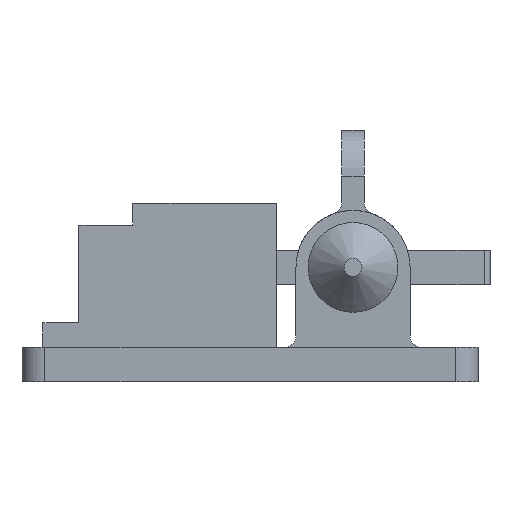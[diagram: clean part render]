
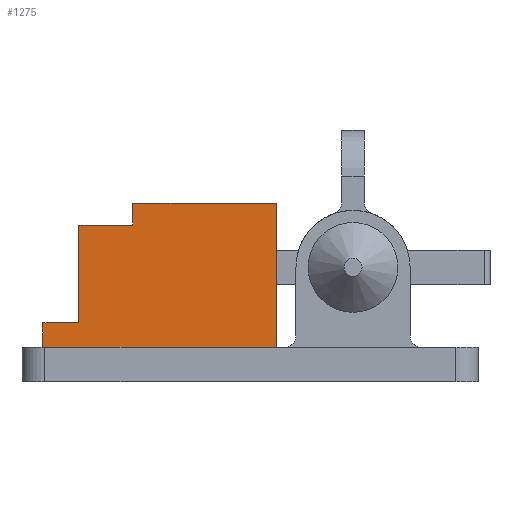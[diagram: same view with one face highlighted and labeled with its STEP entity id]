
A CAD part, left-side view. The second image highlights one B-rep face of the part: STEP entity #1275.
In plain terms, the highlighted planar face has unit normal (-1, 0, 0).
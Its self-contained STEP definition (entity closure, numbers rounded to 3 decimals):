
#86=LINE('',#2095,#178);
#89=LINE('',#2101,#181);
#92=LINE('',#2107,#184);
#95=LINE('',#2113,#187);
#98=LINE('',#2119,#190);
#101=LINE('',#2125,#193);
#104=LINE('',#2131,#196);
#107=LINE('',#2135,#199);
#178=VECTOR('',#1752,10.);
#181=VECTOR('',#1757,10.);
#184=VECTOR('',#1762,10.);
#187=VECTOR('',#1767,10.);
#190=VECTOR('',#1772,10.);
#193=VECTOR('',#1777,10.);
#196=VECTOR('',#1782,10.);
#199=VECTOR('',#1787,10.);
#235=PLANE('',#1422);
#382=FACE_OUTER_BOUND('',#498,.T.);
#498=EDGE_LOOP('',(#1148,#1149,#1150,#1151,#1152,#1153,#1154,#1155));
#670=VERTEX_POINT('',#2092);
#671=VERTEX_POINT('',#2094);
#673=VERTEX_POINT('',#2100);
#675=VERTEX_POINT('',#2106);
#677=VERTEX_POINT('',#2112);
#679=VERTEX_POINT('',#2118);
#681=VERTEX_POINT('',#2124);
#683=VERTEX_POINT('',#2130);
#822=EDGE_CURVE('',#671,#670,#86,.T.);
#825=EDGE_CURVE('',#673,#671,#89,.T.);
#828=EDGE_CURVE('',#675,#673,#92,.T.);
#831=EDGE_CURVE('',#677,#675,#95,.T.);
#834=EDGE_CURVE('',#679,#677,#98,.T.);
#837=EDGE_CURVE('',#681,#679,#101,.T.);
#840=EDGE_CURVE('',#683,#681,#104,.T.);
#843=EDGE_CURVE('',#670,#683,#107,.T.);
#1148=ORIENTED_EDGE('',*,*,#843,.T.);
#1149=ORIENTED_EDGE('',*,*,#840,.T.);
#1150=ORIENTED_EDGE('',*,*,#837,.T.);
#1151=ORIENTED_EDGE('',*,*,#834,.T.);
#1152=ORIENTED_EDGE('',*,*,#831,.T.);
#1153=ORIENTED_EDGE('',*,*,#828,.T.);
#1154=ORIENTED_EDGE('',*,*,#825,.T.);
#1155=ORIENTED_EDGE('',*,*,#822,.T.);
#1275=ADVANCED_FACE('',(#382),#235,.T.);
#1422=AXIS2_PLACEMENT_3D('',#2136,#1788,#1789);
#1752=DIRECTION('',(0.,0.,-1.));
#1757=DIRECTION('',(0.,1.,0.));
#1762=DIRECTION('',(0.,0.,-1.));
#1767=DIRECTION('',(0.,1.,0.));
#1772=DIRECTION('',(0.,0.,-1.));
#1777=DIRECTION('',(0.,1.,0.));
#1782=DIRECTION('',(0.,0.,1.));
#1787=DIRECTION('',(0.,-1.,0.));
#1788=DIRECTION('center_axis',(-1.,0.,0.));
#1789=DIRECTION('ref_axis',(0.,-1.,0.));
#2092=CARTESIAN_POINT('',(-21.972,57.68,9.525));
#2094=CARTESIAN_POINT('',(-21.972,57.68,16.345));
#2095=CARTESIAN_POINT('',(-21.972,57.68,16.345));
#2100=CARTESIAN_POINT('',(-21.973,47.672,16.345));
#2101=CARTESIAN_POINT('',(-21.973,47.672,16.345));
#2106=CARTESIAN_POINT('',(-21.973,47.672,43.536));
#2107=CARTESIAN_POINT('',(-21.973,47.672,43.536));
#2112=CARTESIAN_POINT('',(-21.973,32.686,43.536));
#2113=CARTESIAN_POINT('',(-21.973,32.686,43.536));
#2118=CARTESIAN_POINT('',(-21.973,32.686,49.53));
#2119=CARTESIAN_POINT('',(-21.973,32.686,49.53));
#2124=CARTESIAN_POINT('',(-21.973,-7.32,49.53));
#2125=CARTESIAN_POINT('',(-21.973,-7.32,49.53));
#2130=CARTESIAN_POINT('',(-21.973,-7.32,9.525));
#2131=CARTESIAN_POINT('',(-21.973,-7.32,9.525));
#2135=CARTESIAN_POINT('',(-21.972,57.68,9.525));
#2136=CARTESIAN_POINT('Origin',(-21.973,23.171,27.518));
